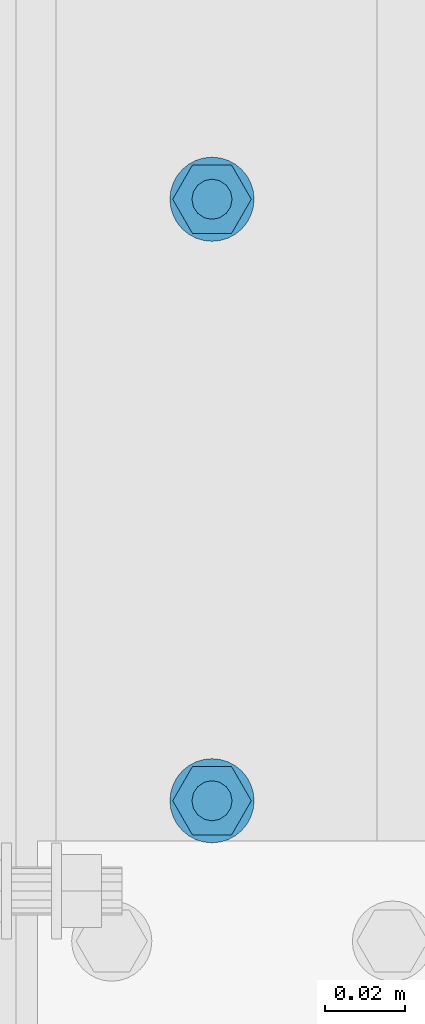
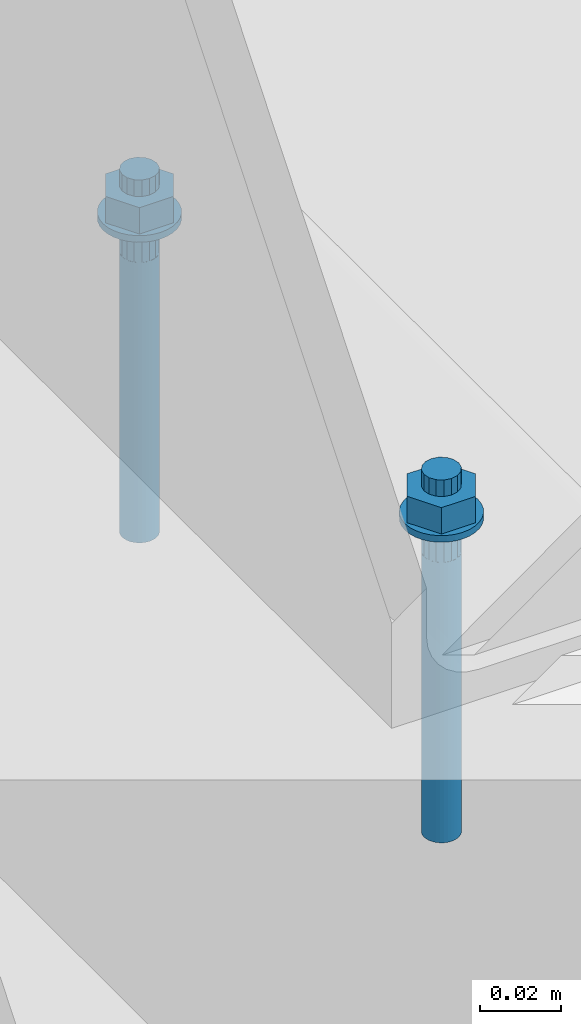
# One storey, part 97 of 476: 1 mechanical fastener.
"""IFC2X3 building model written with IfcOpenShell, lengths in millimetres."""

from ifc_helpers import new_model, entity, si_unit, converted_unit, origin_with_axes, place, context, project, spatial, faceted_brep, element, save


model = new_model("IFC2X3")

# Units and contexts
model_context = context("Model", 3, precision=1e-09, world=origin_with_axes())
ifc_project = project(units=[si_unit("LENGTHUNIT", "METRE", prefix="MILLI"), si_unit("AREAUNIT", "SQUARE_METRE"), si_unit("VOLUMEUNIT", "CUBIC_METRE"), converted_unit("PLANEANGLEUNIT", "DEGREE", entity("IfcPlaneAngleMeasure", 0.01745329), si_unit("PLANEANGLEUNIT", "RADIAN"), dimensions=[0, 0, 0, 0, 0, 0, 0])], contexts=[model_context])

# Site, building, storey
site_placement = place(None, origin_with_axes())
site = spatial("IfcSite", under=ifc_project, at=site_placement, Name="mKR Teilneubau & Sanierung BA1 - Ostfildern", CompositionType="ELEMENT")
building_placement = place(site_placement, origin_with_axes())
building = spatial("IfcBuilding", under=site, at=building_placement, Name="Struktur 1", CompositionType="ELEMENT")
storey_placement = place(building_placement, origin_with_axes())
storey = spatial("IfcBuildingStorey", under=building, at=storey_placement, Name="Default Storey", CompositionType="ELEMENT", Elevation=0.0)

# Mechanical fastener
mechanical_fastener_placement = place(None, origin_with_axes())
element("IfcMechanicalFastener", 1, at=mechanical_fastener_placement, inside=storey, ObjectType="-", NominalDiameter=10.0, NominalLength=110.0, context=model_context, shape_type="Brep", body=[
    faceted_brep([(8149.108764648, -17750.173456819, 512.0), (8149.108764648, -17750.173456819, 510.0), (8147.060316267, -17750.375211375, 510.0), (8147.060316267, -17750.375211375, 512.0), (8145.090588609, -17750.972721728, 510.0), (8145.090588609, -17750.972721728, 512.0), (8143.275277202, -17751.94302589, 510.0), (8143.275277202, -17751.94302589, 512.0), (8141.684143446, -17753.248835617, 510.0), (8141.684143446, -17753.248835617, 512.0), (8140.378333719, -17754.839969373, 510.0), (8140.378333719, -17754.839969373, 512.0), (8139.408029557, -17756.65528078, 510.0), (8139.408029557, -17756.65528078, 512.0), (8138.810519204, -17758.625008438, 510.0), (8138.810519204, -17758.625008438, 512.0), (8138.608764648, -17760.673456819, 510.0), (8138.608764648, -17760.673456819, 512.0), (8138.810519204, -17762.721905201, 510.0), (8138.810519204, -17762.721905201, 512.0), (8139.408029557, -17764.691632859, 510.0), (8139.408029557, -17764.691632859, 512.0), (8140.378333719, -17766.506944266, 510.0), (8140.378333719, -17766.506944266, 512.0), (8141.684143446, -17768.098078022, 510.0), (8141.684143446, -17768.098078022, 512.0), (8143.275277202, -17769.403887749, 510.0), (8143.275277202, -17769.403887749, 512.0), (8145.090588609, -17770.374191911, 510.0), (8145.090588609, -17770.374191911, 512.0), (8147.060316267, -17770.971702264, 510.0), (8147.060316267, -17770.971702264, 512.0), (8149.108764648, -17771.173456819, 510.0), (8149.108764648, -17771.173456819, 512.0), (8151.15721303, -17770.971702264, 510.0), (8151.15721303, -17770.971702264, 512.0), (8153.126940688, -17770.374191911, 510.0), (8153.126940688, -17770.374191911, 512.0), (8154.942252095, -17769.403887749, 510.0), (8154.942252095, -17769.403887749, 512.0), (8156.533385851, -17768.098078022, 510.0), (8156.533385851, -17768.098078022, 512.0), (8157.839195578, -17766.506944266, 510.0), (8157.839195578, -17766.506944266, 512.0), (8158.80949974, -17764.691632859, 510.0), (8158.80949974, -17764.691632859, 512.0), (8159.407010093, -17762.721905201, 510.0), (8159.407010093, -17762.721905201, 512.0), (8159.608764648, -17760.673456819, 510.0), (8159.608764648, -17760.673456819, 512.0), (8159.407010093, -17758.625008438, 510.0), (8159.407010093, -17758.625008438, 512.0), (8158.80949974, -17756.65528078, 510.0), (8158.80949974, -17756.65528078, 512.0), (8157.839195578, -17754.839969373, 510.0), (8157.839195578, -17754.839969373, 512.0), (8156.533385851, -17753.248835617, 510.0), (8156.533385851, -17753.248835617, 512.0), (8154.942252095, -17751.94302589, 510.0), (8154.942252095, -17751.94302589, 512.0), (8153.126940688, -17750.972721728, 510.0), (8153.126940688, -17750.972721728, 512.0), (8151.15721303, -17750.375211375, 510.0), (8151.15721303, -17750.375211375, 512.0)], [[[0, 1, 2, 3]], [[3, 2, 4, 5]], [[5, 4, 6, 7]], [[7, 6, 8, 9]], [[9, 8, 10, 11]], [[11, 10, 12, 13]], [[13, 12, 14, 15]], [[15, 14, 16, 17]], [[17, 16, 18, 19]], [[19, 18, 20, 21]], [[21, 20, 22, 23]], [[23, 22, 24, 25]], [[25, 24, 26, 27]], [[27, 26, 28, 29]], [[29, 28, 30, 31]], [[31, 30, 32, 33]], [[33, 32, 34, 35]], [[35, 34, 36, 37]], [[37, 36, 38, 39]], [[39, 38, 40, 41]], [[41, 40, 42, 43]], [[43, 42, 44, 45]], [[45, 44, 46, 47]], [[47, 46, 48, 49]], [[49, 48, 50, 51]], [[51, 50, 52, 53]], [[53, 52, 54, 55]], [[55, 54, 56, 57]], [[57, 56, 58, 59]], [[59, 58, 60, 61]], [[61, 60, 62, 63]], [[63, 62, 1, 0]], [[0, 3, 5, 7, 9, 11, 13, 15, 17, 19, 21, 23, 25, 27, 29, 31, 33, 35, 37, 39, 41, 43, 45, 47, 49, 51, 53, 55, 57, 59, 61, 63]], [[1, 62, 60, 58, 56, 54, 52, 50, 48, 46, 44, 42, 40, 38, 36, 34, 32, 30, 28, 26, 24, 22, 20, 18, 16, 14, 12, 10, 8, 6, 4, 2]]]),
    faceted_brep([(8149.108764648, -17600.173456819, 512.0), (8149.108764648, -17600.173456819, 510.0), (8147.060316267, -17600.375211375, 510.0), (8147.060316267, -17600.375211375, 512.0), (8145.090588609, -17600.972721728, 510.0), (8145.090588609, -17600.972721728, 512.0), (8143.275277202, -17601.94302589, 510.0), (8143.275277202, -17601.94302589, 512.0), (8141.684143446, -17603.248835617, 510.0), (8141.684143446, -17603.248835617, 512.0), (8140.378333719, -17604.839969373, 510.0), (8140.378333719, -17604.839969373, 512.0), (8139.408029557, -17606.65528078, 510.0), (8139.408029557, -17606.65528078, 512.0), (8138.810519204, -17608.625008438, 510.0), (8138.810519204, -17608.625008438, 512.0), (8138.608764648, -17610.673456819, 510.0), (8138.608764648, -17610.673456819, 512.0), (8138.810519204, -17612.721905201, 510.0), (8138.810519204, -17612.721905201, 512.0), (8139.408029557, -17614.691632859, 510.0), (8139.408029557, -17614.691632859, 512.0), (8140.378333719, -17616.506944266, 510.0), (8140.378333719, -17616.506944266, 512.0), (8141.684143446, -17618.098078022, 510.0), (8141.684143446, -17618.098078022, 512.0), (8143.275277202, -17619.403887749, 510.0), (8143.275277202, -17619.403887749, 512.0), (8145.090588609, -17620.374191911, 510.0), (8145.090588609, -17620.374191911, 512.0), (8147.060316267, -17620.971702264, 510.0), (8147.060316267, -17620.971702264, 512.0), (8149.108764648, -17621.173456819, 510.0), (8149.108764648, -17621.173456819, 512.0), (8151.15721303, -17620.971702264, 510.0), (8151.15721303, -17620.971702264, 512.0), (8153.126940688, -17620.374191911, 510.0), (8153.126940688, -17620.374191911, 512.0), (8154.942252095, -17619.403887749, 510.0), (8154.942252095, -17619.403887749, 512.0), (8156.533385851, -17618.098078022, 510.0), (8156.533385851, -17618.098078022, 512.0), (8157.839195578, -17616.506944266, 510.0), (8157.839195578, -17616.506944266, 512.0), (8158.80949974, -17614.691632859, 510.0), (8158.80949974, -17614.691632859, 512.0), (8159.407010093, -17612.721905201, 510.0), (8159.407010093, -17612.721905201, 512.0), (8159.608764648, -17610.673456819, 510.0), (8159.608764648, -17610.673456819, 512.0), (8159.407010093, -17608.625008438, 510.0), (8159.407010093, -17608.625008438, 512.0), (8158.80949974, -17606.65528078, 510.0), (8158.80949974, -17606.65528078, 512.0), (8157.839195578, -17604.839969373, 510.0), (8157.839195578, -17604.839969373, 512.0), (8156.533385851, -17603.248835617, 510.0), (8156.533385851, -17603.248835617, 512.0), (8154.942252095, -17601.94302589, 510.0), (8154.942252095, -17601.94302589, 512.0), (8153.126940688, -17600.972721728, 510.0), (8153.126940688, -17600.972721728, 512.0), (8151.15721303, -17600.375211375, 510.0), (8151.15721303, -17600.375211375, 512.0)], [[[0, 1, 2, 3]], [[3, 2, 4, 5]], [[5, 4, 6, 7]], [[7, 6, 8, 9]], [[9, 8, 10, 11]], [[11, 10, 12, 13]], [[13, 12, 14, 15]], [[15, 14, 16, 17]], [[17, 16, 18, 19]], [[19, 18, 20, 21]], [[21, 20, 22, 23]], [[23, 22, 24, 25]], [[25, 24, 26, 27]], [[27, 26, 28, 29]], [[29, 28, 30, 31]], [[31, 30, 32, 33]], [[33, 32, 34, 35]], [[35, 34, 36, 37]], [[37, 36, 38, 39]], [[39, 38, 40, 41]], [[41, 40, 42, 43]], [[43, 42, 44, 45]], [[45, 44, 46, 47]], [[47, 46, 48, 49]], [[49, 48, 50, 51]], [[51, 50, 52, 53]], [[53, 52, 54, 55]], [[55, 54, 56, 57]], [[57, 56, 58, 59]], [[59, 58, 60, 61]], [[61, 60, 62, 63]], [[63, 62, 1, 0]], [[0, 3, 5, 7, 9, 11, 13, 15, 17, 19, 21, 23, 25, 27, 29, 31, 33, 35, 37, 39, 41, 43, 45, 47, 49, 51, 53, 55, 57, 59, 61, 63]], [[1, 62, 60, 58, 56, 54, 52, 50, 48, 46, 44, 42, 40, 38, 36, 34, 32, 30, 28, 26, 24, 22, 20, 18, 16, 14, 12, 10, 8, 6, 4, 2]]]),
    faceted_brep([(8144.208764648, -17769.160505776, 512.0), (8144.208764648, -17769.160505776, 520.0), (8139.308764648, -17760.673456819, 520.0), (8139.308764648, -17760.673456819, 512.0), (8144.208764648, -17752.186407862, 520.0), (8144.208764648, -17752.186407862, 512.0), (8154.008764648, -17752.186407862, 520.0), (8154.008764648, -17752.186407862, 512.0), (8158.908764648, -17760.673456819, 520.0), (8158.908764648, -17760.673456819, 512.0), (8154.008764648, -17769.160505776, 520.0), (8154.008764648, -17769.160505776, 512.0)], [[[0, 1, 2, 3]], [[3, 2, 4, 5]], [[5, 4, 6, 7]], [[7, 6, 8, 9]], [[9, 8, 10, 11]], [[11, 10, 1, 0]], [[4, 2, 1, 10, 8, 6]], [[0, 3, 5, 7, 9, 11]]]),
    faceted_brep([(8144.208764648, -17619.160505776, 512.0), (8144.208764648, -17619.160505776, 520.0), (8139.308764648, -17610.673456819, 520.0), (8139.308764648, -17610.673456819, 512.0), (8144.208764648, -17602.186407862, 520.0), (8144.208764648, -17602.186407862, 512.0), (8154.008764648, -17602.186407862, 520.0), (8154.008764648, -17602.186407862, 512.0), (8158.908764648, -17610.673456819, 520.0), (8158.908764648, -17610.673456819, 512.0), (8154.008764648, -17619.160505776, 520.0), (8154.008764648, -17619.160505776, 512.0)], [[[0, 1, 2, 3]], [[3, 2, 4, 5]], [[5, 4, 6, 7]], [[7, 6, 8, 9]], [[9, 8, 10, 11]], [[11, 10, 1, 0]], [[4, 2, 1, 10, 8, 6]], [[0, 3, 5, 7, 9, 11]]]),
    faceted_brep([(8149.108764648, -17755.673456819, 525.0), (8149.108764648, -17755.673456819, 520.0), (8147.195347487, -17756.054059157, 520.0), (8147.195347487, -17756.054059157, 525.0), (8145.573230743, -17757.137922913, 520.0), (8145.573230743, -17757.137922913, 525.0), (8144.489366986, -17758.760039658, 520.0), (8144.489366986, -17758.760039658, 525.0), (8144.108764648, -17760.673456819, 520.0), (8144.108764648, -17760.673456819, 525.0), (8144.489366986, -17762.586873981, 520.0), (8144.489366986, -17762.586873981, 525.0), (8145.573230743, -17764.208990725, 520.0), (8145.573230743, -17764.208990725, 525.0), (8147.195347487, -17765.292854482, 520.0), (8147.195347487, -17765.292854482, 525.0), (8149.108764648, -17765.673456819, 520.0), (8149.108764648, -17765.673456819, 525.0), (8151.02218181, -17765.292854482, 520.0), (8151.02218181, -17765.292854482, 525.0), (8152.644298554, -17764.208990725, 520.0), (8152.644298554, -17764.208990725, 525.0), (8153.728162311, -17762.586873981, 520.0), (8153.728162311, -17762.586873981, 525.0), (8154.108764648, -17760.673456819, 520.0), (8154.108764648, -17760.673456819, 525.0), (8153.728162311, -17758.760039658, 520.0), (8153.728162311, -17758.760039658, 525.0), (8152.644298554, -17757.137922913, 520.0), (8152.644298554, -17757.137922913, 525.0), (8151.02218181, -17756.054059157, 520.0), (8151.02218181, -17756.054059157, 525.0)], [[[0, 1, 2, 3]], [[3, 2, 4, 5]], [[5, 4, 6, 7]], [[7, 6, 8, 9]], [[9, 8, 10, 11]], [[11, 10, 12, 13]], [[13, 12, 14, 15]], [[15, 14, 16, 17]], [[17, 16, 18, 19]], [[19, 18, 20, 21]], [[21, 20, 22, 23]], [[23, 22, 24, 25]], [[25, 24, 26, 27]], [[27, 26, 28, 29]], [[29, 28, 30, 31]], [[31, 30, 1, 0]], [[0, 3, 5, 7, 9, 11, 13, 15, 17, 19, 21, 23, 25, 27, 29, 31]], [[1, 30, 28, 26, 24, 22, 20, 18, 16, 14, 12, 10, 8, 6, 4, 2]]]),
    faceted_brep([(8149.108764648, -17605.673456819, 525.0), (8149.108764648, -17605.673456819, 520.0), (8147.195347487, -17606.054059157, 520.0), (8147.195347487, -17606.054059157, 525.0), (8145.573230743, -17607.137922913, 520.0), (8145.573230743, -17607.137922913, 525.0), (8144.489366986, -17608.760039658, 520.0), (8144.489366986, -17608.760039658, 525.0), (8144.108764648, -17610.673456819, 520.0), (8144.108764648, -17610.673456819, 525.0), (8144.489366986, -17612.586873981, 520.0), (8144.489366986, -17612.586873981, 525.0), (8145.573230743, -17614.208990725, 520.0), (8145.573230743, -17614.208990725, 525.0), (8147.195347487, -17615.292854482, 520.0), (8147.195347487, -17615.292854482, 525.0), (8149.108764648, -17615.673456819, 520.0), (8149.108764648, -17615.673456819, 525.0), (8151.02218181, -17615.292854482, 520.0), (8151.02218181, -17615.292854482, 525.0), (8152.644298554, -17614.208990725, 520.0), (8152.644298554, -17614.208990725, 525.0), (8153.728162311, -17612.586873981, 520.0), (8153.728162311, -17612.586873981, 525.0), (8154.108764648, -17610.673456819, 520.0), (8154.108764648, -17610.673456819, 525.0), (8153.728162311, -17608.760039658, 520.0), (8153.728162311, -17608.760039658, 525.0), (8152.644298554, -17607.137922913, 520.0), (8152.644298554, -17607.137922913, 525.0), (8151.02218181, -17606.054059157, 520.0), (8151.02218181, -17606.054059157, 525.0)], [[[0, 1, 2, 3]], [[3, 2, 4, 5]], [[5, 4, 6, 7]], [[7, 6, 8, 9]], [[9, 8, 10, 11]], [[11, 10, 12, 13]], [[13, 12, 14, 15]], [[15, 14, 16, 17]], [[17, 16, 18, 19]], [[19, 18, 20, 21]], [[21, 20, 22, 23]], [[23, 22, 24, 25]], [[25, 24, 26, 27]], [[27, 26, 28, 29]], [[29, 28, 30, 31]], [[31, 30, 1, 0]], [[0, 3, 5, 7, 9, 11, 13, 15, 17, 19, 21, 23, 25, 27, 29, 31]], [[1, 30, 28, 26, 24, 22, 20, 18, 16, 14, 12, 10, 8, 6, 4, 2]]]),
    faceted_brep([(8149.108764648, -17755.673456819, 510.0), (8149.108764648, -17755.673456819, 500.0), (8147.195347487, -17756.054059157, 500.0), (8147.195347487, -17756.054059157, 510.0), (8145.573230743, -17757.137922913, 500.0), (8145.573230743, -17757.137922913, 510.0), (8144.489366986, -17758.760039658, 500.0), (8144.489366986, -17758.760039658, 510.0), (8144.108764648, -17760.673456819, 500.0), (8144.108764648, -17760.673456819, 510.0), (8144.489366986, -17762.586873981, 500.0), (8144.489366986, -17762.586873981, 510.0), (8145.573230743, -17764.208990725, 500.0), (8145.573230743, -17764.208990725, 510.0), (8147.195347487, -17765.292854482, 500.0), (8147.195347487, -17765.292854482, 510.0), (8149.108764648, -17765.673456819, 500.0), (8149.108764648, -17765.673456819, 510.0), (8151.02218181, -17765.292854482, 500.0), (8151.02218181, -17765.292854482, 510.0), (8152.644298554, -17764.208990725, 500.0), (8152.644298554, -17764.208990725, 510.0), (8153.728162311, -17762.586873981, 500.0), (8153.728162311, -17762.586873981, 510.0), (8154.108764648, -17760.673456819, 500.0), (8154.108764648, -17760.673456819, 510.0), (8153.728162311, -17758.760039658, 500.0), (8153.728162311, -17758.760039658, 510.0), (8152.644298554, -17757.137922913, 500.0), (8152.644298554, -17757.137922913, 510.0), (8151.02218181, -17756.054059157, 500.0), (8151.02218181, -17756.054059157, 510.0)], [[[0, 1, 2, 3]], [[3, 2, 4, 5]], [[5, 4, 6, 7]], [[7, 6, 8, 9]], [[9, 8, 10, 11]], [[11, 10, 12, 13]], [[13, 12, 14, 15]], [[15, 14, 16, 17]], [[17, 16, 18, 19]], [[19, 18, 20, 21]], [[21, 20, 22, 23]], [[23, 22, 24, 25]], [[25, 24, 26, 27]], [[27, 26, 28, 29]], [[29, 28, 30, 31]], [[31, 30, 1, 0]], [[0, 3, 5, 7, 9, 11, 13, 15, 17, 19, 21, 23, 25, 27, 29, 31]], [[1, 30, 28, 26, 24, 22, 20, 18, 16, 14, 12, 10, 8, 6, 4, 2]]]),
    faceted_brep([(8149.108764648, -17605.673456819, 510.0), (8149.108764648, -17605.673456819, 500.0), (8147.195347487, -17606.054059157, 500.0), (8147.195347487, -17606.054059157, 510.0), (8145.573230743, -17607.137922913, 500.0), (8145.573230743, -17607.137922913, 510.0), (8144.489366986, -17608.760039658, 500.0), (8144.489366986, -17608.760039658, 510.0), (8144.108764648, -17610.673456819, 500.0), (8144.108764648, -17610.673456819, 510.0), (8144.489366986, -17612.586873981, 500.0), (8144.489366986, -17612.586873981, 510.0), (8145.573230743, -17614.208990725, 500.0), (8145.573230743, -17614.208990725, 510.0), (8147.195347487, -17615.292854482, 500.0), (8147.195347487, -17615.292854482, 510.0), (8149.108764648, -17615.673456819, 500.0), (8149.108764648, -17615.673456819, 510.0), (8151.02218181, -17615.292854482, 500.0), (8151.02218181, -17615.292854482, 510.0), (8152.644298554, -17614.208990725, 500.0), (8152.644298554, -17614.208990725, 510.0), (8153.728162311, -17612.586873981, 500.0), (8153.728162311, -17612.586873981, 510.0), (8154.108764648, -17610.673456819, 500.0), (8154.108764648, -17610.673456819, 510.0), (8153.728162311, -17608.760039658, 500.0), (8153.728162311, -17608.760039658, 510.0), (8152.644298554, -17607.137922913, 500.0), (8152.644298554, -17607.137922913, 510.0), (8151.02218181, -17606.054059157, 500.0), (8151.02218181, -17606.054059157, 510.0)], [[[0, 1, 2, 3]], [[3, 2, 4, 5]], [[5, 4, 6, 7]], [[7, 6, 8, 9]], [[9, 8, 10, 11]], [[11, 10, 12, 13]], [[13, 12, 14, 15]], [[15, 14, 16, 17]], [[17, 16, 18, 19]], [[19, 18, 20, 21]], [[21, 20, 22, 23]], [[23, 22, 24, 25]], [[25, 24, 26, 27]], [[27, 26, 28, 29]], [[29, 28, 30, 31]], [[31, 30, 1, 0]], [[0, 3, 5, 7, 9, 11, 13, 15, 17, 19, 21, 23, 25, 27, 29, 31]], [[1, 30, 28, 26, 24, 22, 20, 18, 16, 14, 12, 10, 8, 6, 4, 2]]]),
    faceted_brep([(8149.108764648, -17755.673456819, 500.0), (8149.108764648, -17755.673456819, 415.0), (8148.133313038, -17755.769530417, 415.0), (8148.133313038, -17755.769530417, 500.0), (8147.195347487, -17756.054059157, 415.0), (8147.195347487, -17756.054059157, 500.0), (8146.330913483, -17756.516108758, 415.0), (8146.330913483, -17756.516108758, 500.0), (8145.573230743, -17757.137922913, 415.0), (8145.573230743, -17757.137922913, 500.0), (8144.951416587, -17757.895605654, 415.0), (8144.951416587, -17757.895605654, 500.0), (8144.489366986, -17758.760039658, 415.0), (8144.489366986, -17758.760039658, 500.0), (8144.204838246, -17759.698005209, 415.0), (8144.204838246, -17759.698005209, 500.0), (8144.108764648, -17760.673456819, 415.0), (8144.108764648, -17760.673456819, 500.0), (8144.204838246, -17761.648908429, 415.0), (8144.204838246, -17761.648908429, 500.0), (8144.489366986, -17762.586873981, 415.0), (8144.489366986, -17762.586873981, 500.0), (8144.951416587, -17763.451307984, 415.0), (8144.951416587, -17763.451307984, 500.0), (8145.573230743, -17764.208990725, 415.0), (8145.573230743, -17764.208990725, 500.0), (8146.330913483, -17764.830804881, 415.0), (8146.330913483, -17764.830804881, 500.0), (8147.195347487, -17765.292854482, 415.0), (8147.195347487, -17765.292854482, 500.0), (8148.133313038, -17765.577383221, 415.0), (8148.133313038, -17765.577383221, 500.0), (8149.108764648, -17765.673456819, 415.0), (8149.108764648, -17765.673456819, 500.0), (8150.084216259, -17765.577383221, 415.0), (8150.084216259, -17765.577383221, 500.0), (8151.02218181, -17765.292854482, 415.0), (8151.02218181, -17765.292854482, 500.0), (8151.886615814, -17764.830804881, 415.0), (8151.886615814, -17764.830804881, 500.0), (8152.644298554, -17764.208990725, 415.0), (8152.644298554, -17764.208990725, 500.0), (8153.26611271, -17763.451307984, 415.0), (8153.26611271, -17763.451307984, 500.0), (8153.728162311, -17762.586873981, 415.0), (8153.728162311, -17762.586873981, 500.0), (8154.01269105, -17761.648908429, 415.0), (8154.01269105, -17761.648908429, 500.0), (8154.108764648, -17760.673456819, 415.0), (8154.108764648, -17760.673456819, 500.0), (8154.01269105, -17759.698005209, 415.0), (8154.01269105, -17759.698005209, 500.0), (8153.728162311, -17758.760039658, 415.0), (8153.728162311, -17758.760039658, 500.0), (8153.26611271, -17757.895605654, 415.0), (8153.26611271, -17757.895605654, 500.0), (8152.644298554, -17757.137922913, 415.0), (8152.644298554, -17757.137922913, 500.0), (8151.886615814, -17756.516108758, 415.0), (8151.886615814, -17756.516108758, 500.0), (8151.02218181, -17756.054059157, 415.0), (8151.02218181, -17756.054059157, 500.0), (8150.084216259, -17755.769530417, 415.0), (8150.084216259, -17755.769530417, 500.0)], [[[0, 1, 2, 3]], [[3, 2, 4, 5]], [[5, 4, 6, 7]], [[7, 6, 8, 9]], [[9, 8, 10, 11]], [[11, 10, 12, 13]], [[13, 12, 14, 15]], [[15, 14, 16, 17]], [[17, 16, 18, 19]], [[19, 18, 20, 21]], [[21, 20, 22, 23]], [[23, 22, 24, 25]], [[25, 24, 26, 27]], [[27, 26, 28, 29]], [[29, 28, 30, 31]], [[31, 30, 32, 33]], [[33, 32, 34, 35]], [[35, 34, 36, 37]], [[37, 36, 38, 39]], [[39, 38, 40, 41]], [[41, 40, 42, 43]], [[43, 42, 44, 45]], [[45, 44, 46, 47]], [[47, 46, 48, 49]], [[49, 48, 50, 51]], [[51, 50, 52, 53]], [[53, 52, 54, 55]], [[55, 54, 56, 57]], [[57, 56, 58, 59]], [[59, 58, 60, 61]], [[61, 60, 62, 63]], [[63, 62, 1, 0]], [[0, 3, 5, 7, 9, 11, 13, 15, 17, 19, 21, 23, 25, 27, 29, 31, 33, 35, 37, 39, 41, 43, 45, 47, 49, 51, 53, 55, 57, 59, 61, 63]], [[1, 62, 60, 58, 56, 54, 52, 50, 48, 46, 44, 42, 40, 38, 36, 34, 32, 30, 28, 26, 24, 22, 20, 18, 16, 14, 12, 10, 8, 6, 4, 2]]]),
    faceted_brep([(8149.108764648, -17605.673456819, 500.0), (8149.108764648, -17605.673456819, 415.0), (8148.133313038, -17605.769530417, 415.0), (8148.133313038, -17605.769530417, 500.0), (8147.195347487, -17606.054059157, 415.0), (8147.195347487, -17606.054059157, 500.0), (8146.330913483, -17606.516108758, 415.0), (8146.330913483, -17606.516108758, 500.0), (8145.573230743, -17607.137922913, 415.0), (8145.573230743, -17607.137922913, 500.0), (8144.951416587, -17607.895605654, 415.0), (8144.951416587, -17607.895605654, 500.0), (8144.489366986, -17608.760039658, 415.0), (8144.489366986, -17608.760039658, 500.0), (8144.204838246, -17609.698005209, 415.0), (8144.204838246, -17609.698005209, 500.0), (8144.108764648, -17610.673456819, 415.0), (8144.108764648, -17610.673456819, 500.0), (8144.204838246, -17611.648908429, 415.0), (8144.204838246, -17611.648908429, 500.0), (8144.489366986, -17612.586873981, 415.0), (8144.489366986, -17612.586873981, 500.0), (8144.951416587, -17613.451307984, 415.0), (8144.951416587, -17613.451307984, 500.0), (8145.573230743, -17614.208990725, 415.0), (8145.573230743, -17614.208990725, 500.0), (8146.330913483, -17614.830804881, 415.0), (8146.330913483, -17614.830804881, 500.0), (8147.195347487, -17615.292854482, 415.0), (8147.195347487, -17615.292854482, 500.0), (8148.133313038, -17615.577383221, 415.0), (8148.133313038, -17615.577383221, 500.0), (8149.108764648, -17615.673456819, 415.0), (8149.108764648, -17615.673456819, 500.0), (8150.084216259, -17615.577383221, 415.0), (8150.084216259, -17615.577383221, 500.0), (8151.02218181, -17615.292854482, 415.0), (8151.02218181, -17615.292854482, 500.0), (8151.886615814, -17614.830804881, 415.0), (8151.886615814, -17614.830804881, 500.0), (8152.644298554, -17614.208990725, 415.0), (8152.644298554, -17614.208990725, 500.0), (8153.26611271, -17613.451307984, 415.0), (8153.26611271, -17613.451307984, 500.0), (8153.728162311, -17612.586873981, 415.0), (8153.728162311, -17612.586873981, 500.0), (8154.01269105, -17611.648908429, 415.0), (8154.01269105, -17611.648908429, 500.0), (8154.108764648, -17610.673456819, 415.0), (8154.108764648, -17610.673456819, 500.0), (8154.01269105, -17609.698005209, 415.0), (8154.01269105, -17609.698005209, 500.0), (8153.728162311, -17608.760039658, 415.0), (8153.728162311, -17608.760039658, 500.0), (8153.26611271, -17607.895605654, 415.0), (8153.26611271, -17607.895605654, 500.0), (8152.644298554, -17607.137922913, 415.0), (8152.644298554, -17607.137922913, 500.0), (8151.886615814, -17606.516108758, 415.0), (8151.886615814, -17606.516108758, 500.0), (8151.02218181, -17606.054059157, 415.0), (8151.02218181, -17606.054059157, 500.0), (8150.084216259, -17605.769530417, 415.0), (8150.084216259, -17605.769530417, 500.0)], [[[0, 1, 2, 3]], [[3, 2, 4, 5]], [[5, 4, 6, 7]], [[7, 6, 8, 9]], [[9, 8, 10, 11]], [[11, 10, 12, 13]], [[13, 12, 14, 15]], [[15, 14, 16, 17]], [[17, 16, 18, 19]], [[19, 18, 20, 21]], [[21, 20, 22, 23]], [[23, 22, 24, 25]], [[25, 24, 26, 27]], [[27, 26, 28, 29]], [[29, 28, 30, 31]], [[31, 30, 32, 33]], [[33, 32, 34, 35]], [[35, 34, 36, 37]], [[37, 36, 38, 39]], [[39, 38, 40, 41]], [[41, 40, 42, 43]], [[43, 42, 44, 45]], [[45, 44, 46, 47]], [[47, 46, 48, 49]], [[49, 48, 50, 51]], [[51, 50, 52, 53]], [[53, 52, 54, 55]], [[55, 54, 56, 57]], [[57, 56, 58, 59]], [[59, 58, 60, 61]], [[61, 60, 62, 63]], [[63, 62, 1, 0]], [[0, 3, 5, 7, 9, 11, 13, 15, 17, 19, 21, 23, 25, 27, 29, 31, 33, 35, 37, 39, 41, 43, 45, 47, 49, 51, 53, 55, 57, 59, 61, 63]], [[1, 62, 60, 58, 56, 54, 52, 50, 48, 46, 44, 42, 40, 38, 36, 34, 32, 30, 28, 26, 24, 22, 20, 18, 16, 14, 12, 10, 8, 6, 4, 2]]]),
])

save(model, "model.ifc")
